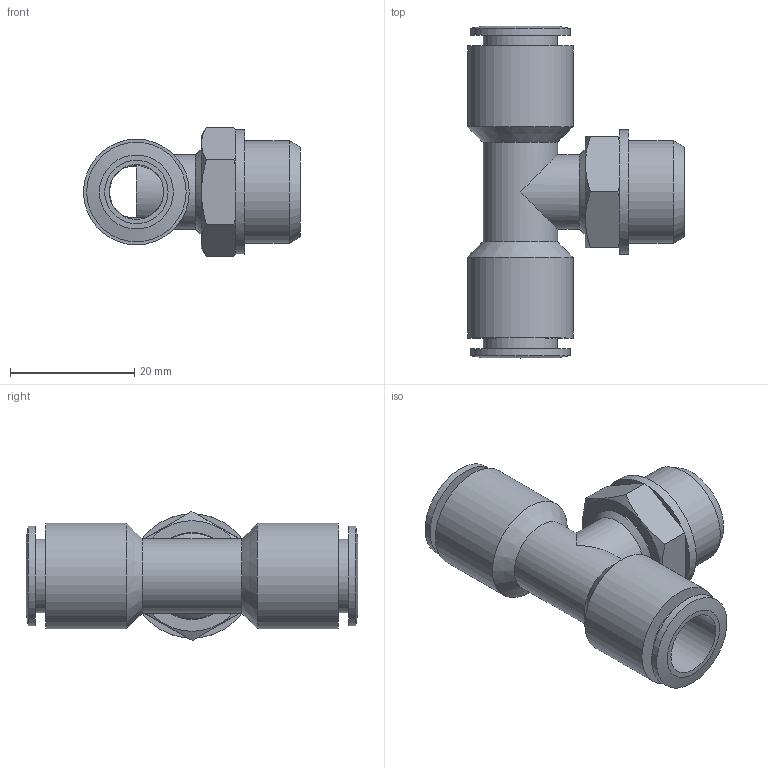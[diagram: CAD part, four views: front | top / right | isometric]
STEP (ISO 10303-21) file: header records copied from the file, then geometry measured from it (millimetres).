
FILE_DESCRIPTION((''),'2;1');
FILE_NAME('C:\Documents and Settings\rivolro1\Documenti\copia di Raccordi\PLASTICA\T20XXXX\T201038.stp','2007-10-31T15:27:04',('Rivolro1'),(''),'Autodesk Inventor 2008','Autodesk Inventor 2008','');
FILE_SCHEMA(('AUTOMOTIVE_DESIGN { 1 0 10303 214 1 1 1 1 }'));
Length unit declared in the file: millimetre
Products named in the file (1): T201038
Bounding box: 34.9 x 53.4 x 20.78 mm (x, y, z)
Volume: 8737.7 mm3; surface area: 7140.1 mm2
Topology: 1 solids, 1 shells, 57 faces, 116 edges, 71 vertices
Faces by surface type: plane 24, cylinder 15, cone 13, bspline 5
Full cylindrical faces by diameter (mm): 8.8 x1, 11.9 x2, 12 x2, 13.8 x1, 14 x1, 16 x2, 16.5 x1, 17 x2, 20 x1
Entity records: 1514 total; most frequent: CARTESIAN_POINT 375, DIRECTION 224, ORIENTED_EDGE 174, AXIS2_PLACEMENT_3D 104, EDGE_LOOP 94, EDGE_CURVE 87, VERTEX_POINT 65, FACE_OUTER_BOUND 57
